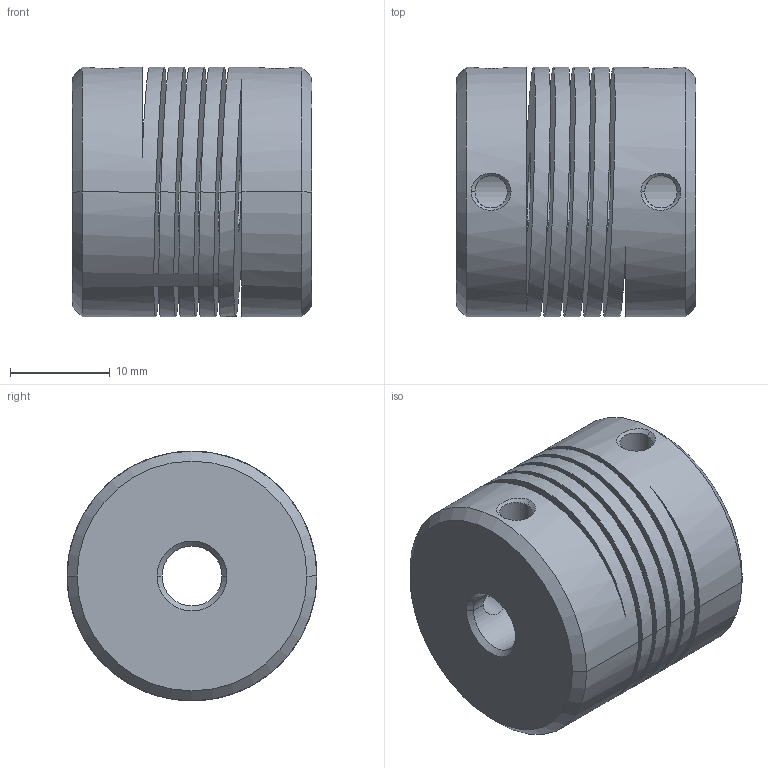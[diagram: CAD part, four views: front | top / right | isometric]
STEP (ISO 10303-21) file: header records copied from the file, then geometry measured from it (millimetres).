
FILE_DESCRIPTION( ( '' ), '1' );
FILE_NAME( '//partserver001.servicenet/client_exchange/iodir/jobs/output/wkb18291208_no1/STEP/e60027_2_03.stp', '2009-08-27T13:40:22', ( '' ), ( '' ), ' ', ' ', ' ' );
FILE_SCHEMA( ( 'CONFIG_CONTROL_DESIGN' ) );
Length unit declared in the file: millimetre
Products named in the file (1): 1
Bounding box: 24 x 25 x 25 mm (x, y, z)
Volume: 9208.7 mm3; surface area: 8093.6 mm2
Topology: 1 solids, 1 shells, 62 faces, 182 edges, 118 vertices
Faces by surface type: cylinder 28, plane 18, cone 16
Entity records: 2648 total; most frequent: CARTESIAN_POINT 867, DIRECTION 378, ORIENTED_EDGE 364, EDGE_CURVE 182, AXIS2_PLACEMENT_3D 153, VERTEX_POINT 118, EDGE_LOOP 80, LINE 72
